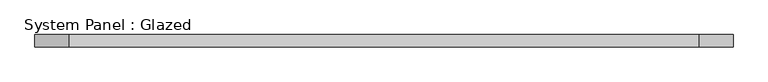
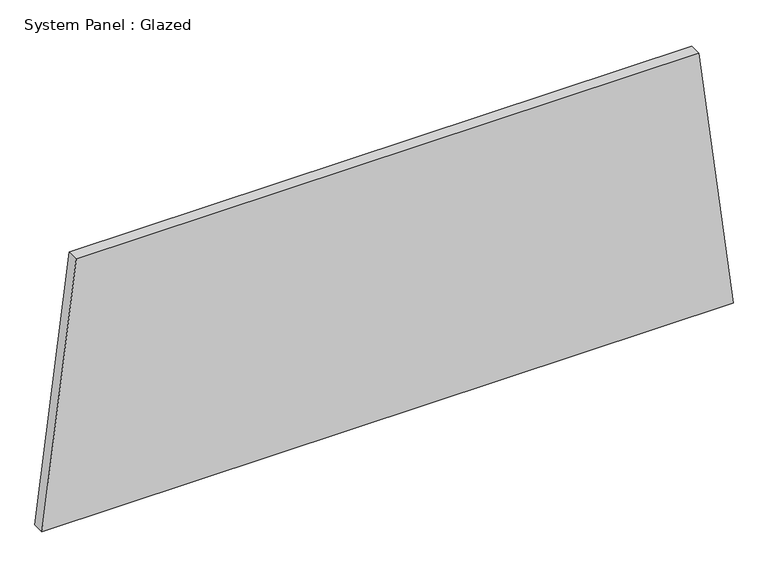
"""IFC4 building model written with IfcOpenShell, lengths in millimetres: plate geometry, System Panel : Glazed."""

from ifc_helpers import new_model, si_unit, frame, origin, place, context, project, spatial, polyline, outline, extrude, source, transform, mapped, element, save


def system_panel_glazed_9f229a92(model_context):
    return source(origin(), model_context, "Body", "SweptSolid", [
        extrude(outline(polyline([(0.0, -724.8307287), (0.0, 724.8307287), (579.5793733, 653.0619187), (579.5793733, -653.0619187), (0.0, -724.8307287)])), frame((0.0, 19.05, 0.0), z_axis=(0.0, 1.0, 0.0), x_axis=(0.0, 0.0, 1.0)), (0.0, 0.0, 1.0), 25.4),
    ])


if __name__ == "__main__":
    model = new_model("IFC4")
    model_context = context("Model", 3, world=origin())
    ifc_project = project(units=[si_unit("LENGTHUNIT", "METRE", prefix="MILLI")], contexts=[model_context])
    site = spatial("IfcSite", under=ifc_project)
    building = spatial("IfcBuilding", under=site)
    placement = place(None, origin())
    system_panel_glazed_shape = system_panel_glazed_9f229a92(model_context)
    element("IfcPlate", 1, ObjectType="System Panel : Glazed", at=placement, inside=building, context=model_context, shape_type="MappedRepresentation", body=[
        mapped(system_panel_glazed_shape, transform((0.0, 0.0, 0.0), x_axis=(1.0, 0.0, 0.0), y_axis=(0.0, 1.0, 0.0), z_axis=(0.0, 0.0, 1.0))),
    ])
    save(model, "model.ifc")
